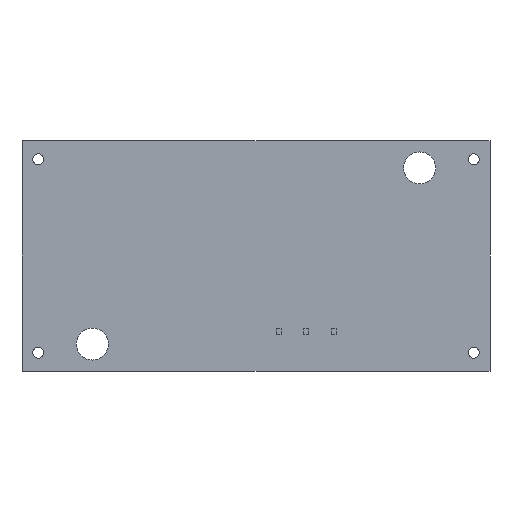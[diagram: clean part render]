
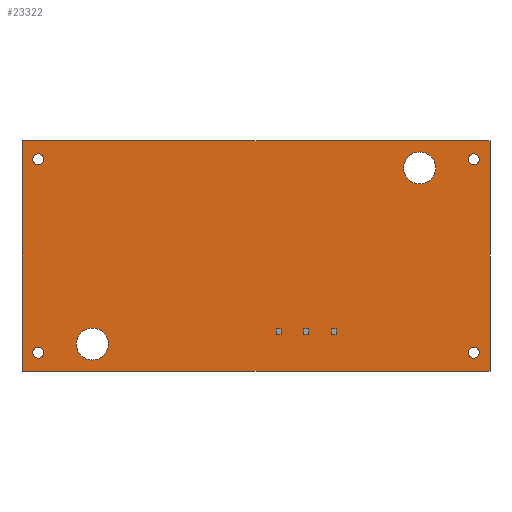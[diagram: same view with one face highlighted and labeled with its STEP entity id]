
A CAD part, front view. The second image highlights one B-rep face of the part: STEP entity #23322.
In plain terms, the highlighted planar face has unit normal (0, -1, 0).
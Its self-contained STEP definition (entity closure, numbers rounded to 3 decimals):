
#2386=FACE_BOUND('',#3950,.T.);
#2387=FACE_BOUND('',#3951,.T.);
#2388=FACE_BOUND('',#3952,.T.);
#2389=FACE_BOUND('',#3953,.T.);
#2390=FACE_BOUND('',#3954,.T.);
#2391=FACE_BOUND('',#3955,.T.);
#2474=CIRCLE('',#25178,0.5);
#2475=CIRCLE('',#25179,0.5);
#2476=CIRCLE('',#25180,0.5);
#2477=CIRCLE('',#25181,1.475);
#2478=CIRCLE('',#25182,0.5);
#2479=CIRCLE('',#25183,1.475);
#2629=FACE_OUTER_BOUND('',#3949,.T.);
#3949=EDGE_LOOP('',(#15906,#15907,#15908,#15909));
#3950=EDGE_LOOP('',(#15910));
#3951=EDGE_LOOP('',(#15911));
#3952=EDGE_LOOP('',(#15912));
#3953=EDGE_LOOP('',(#15913));
#3954=EDGE_LOOP('',(#15914));
#3955=EDGE_LOOP('',(#15915));
#5438=LINE('',#31493,#7834);
#5445=LINE('',#31506,#7841);
#5451=LINE('',#31517,#7847);
#5457=LINE('',#31527,#7853);
#7834=VECTOR('',#26389,21.25);
#7841=VECTOR('',#26398,43.2);
#7847=VECTOR('',#26406,21.25);
#7853=VECTOR('',#26414,43.2);
#10256=VERTEX_POINT('',#31491);
#10257=VERTEX_POINT('',#31492);
#10262=VERTEX_POINT('',#31505);
#10266=VERTEX_POINT('',#31516);
#10272=VERTEX_POINT('',#31535);
#10273=VERTEX_POINT('',#31537);
#10274=VERTEX_POINT('',#31539);
#10275=VERTEX_POINT('',#31541);
#10276=VERTEX_POINT('',#31543);
#10277=VERTEX_POINT('',#31545);
#12502=EDGE_CURVE('',#10256,#10257,#5438,.T.);
#12509=EDGE_CURVE('',#10257,#10262,#5445,.T.);
#12515=EDGE_CURVE('',#10262,#10266,#5451,.T.);
#12521=EDGE_CURVE('',#10266,#10256,#5457,.T.);
#12526=EDGE_CURVE('',#10272,#10272,#2474,.T.);
#12527=EDGE_CURVE('',#10273,#10273,#2475,.T.);
#12528=EDGE_CURVE('',#10274,#10274,#2476,.T.);
#12529=EDGE_CURVE('',#10275,#10275,#2477,.T.);
#12530=EDGE_CURVE('',#10276,#10276,#2478,.T.);
#12531=EDGE_CURVE('',#10277,#10277,#2479,.T.);
#15906=ORIENTED_EDGE('',*,*,#12502,.F.);
#15907=ORIENTED_EDGE('',*,*,#12521,.F.);
#15908=ORIENTED_EDGE('',*,*,#12515,.F.);
#15909=ORIENTED_EDGE('',*,*,#12509,.F.);
#15910=ORIENTED_EDGE('',*,*,#12526,.T.);
#15911=ORIENTED_EDGE('',*,*,#12527,.T.);
#15912=ORIENTED_EDGE('',*,*,#12528,.T.);
#15913=ORIENTED_EDGE('',*,*,#12529,.T.);
#15914=ORIENTED_EDGE('',*,*,#12530,.T.);
#15915=ORIENTED_EDGE('',*,*,#12531,.T.);
#22493=PLANE('',#25177);
#23322=ADVANCED_FACE('',(#2629,#2386,#2387,#2388,#2389,#2390,#2391),#22493,
 .T.);
#25177=AXIS2_PLACEMENT_3D('',#31534,#26419,#26420);
#25178=AXIS2_PLACEMENT_3D('',#31536,#26421,#26422);
#25179=AXIS2_PLACEMENT_3D('',#31538,#26423,#26424);
#25180=AXIS2_PLACEMENT_3D('',#31540,#26425,#26426);
#25181=AXIS2_PLACEMENT_3D('',#31542,#26427,#26428);
#25182=AXIS2_PLACEMENT_3D('',#31544,#26429,#26430);
#25183=AXIS2_PLACEMENT_3D('',#31546,#26431,#26432);
#26389=DIRECTION('',(0.,0.,-1.));
#26398=DIRECTION('',(-1.,0.,0.));
#26406=DIRECTION('',(0.,0.,1.));
#26414=DIRECTION('',(1.,0.,0.));
#26419=DIRECTION('center_axis',(0.,-1.,0.));
#26420=DIRECTION('ref_axis',(0.,0.,-1.));
#26421=DIRECTION('center_axis',(0.,1.,0.));
#26422=DIRECTION('ref_axis',(0.,0.,1.));
#26423=DIRECTION('center_axis',(0.,1.,0.));
#26424=DIRECTION('ref_axis',(0.,0.,-1.));
#26425=DIRECTION('center_axis',(0.,1.,0.));
#26426=DIRECTION('ref_axis',(0.,0.,-1.));
#26427=DIRECTION('center_axis',(0.,1.,0.));
#26428=DIRECTION('ref_axis',(0.,0.,1.));
#26429=DIRECTION('center_axis',(0.,1.,0.));
#26430=DIRECTION('ref_axis',(0.,0.,1.));
#26431=DIRECTION('center_axis',(0.,1.,0.));
#26432=DIRECTION('ref_axis',(0.,0.,1.));
#31491=CARTESIAN_POINT('',(21.6,0.,10.625));
#31492=CARTESIAN_POINT('',(21.6,0.,-10.625));
#31493=CARTESIAN_POINT('',(21.6,0.,10.625));
#31505=CARTESIAN_POINT('',(-21.6,0.,-10.625));
#31506=CARTESIAN_POINT('',(21.6,0.,-10.625));
#31516=CARTESIAN_POINT('',(-21.6,0.,10.625));
#31517=CARTESIAN_POINT('',(-21.6,0.,-10.625));
#31527=CARTESIAN_POINT('',(-21.6,0.,10.625));
#31534=CARTESIAN_POINT('Origin',(0.,0.,0.));
#31535=CARTESIAN_POINT('',(20.1,0.,9.425));
#31536=CARTESIAN_POINT('Origin',(20.1,0.,8.925));
#31537=CARTESIAN_POINT('',(20.1,0.,-8.425));
#31538=CARTESIAN_POINT('Origin',(20.1,0.,-8.925));
#31539=CARTESIAN_POINT('',(-20.1,0.,9.425));
#31540=CARTESIAN_POINT('Origin',(-20.1,0.,8.925));
#31541=CARTESIAN_POINT('',(15.1,0.,9.6));
#31542=CARTESIAN_POINT('Origin',(15.1,0.,8.125));
#31543=CARTESIAN_POINT('',(-20.1,0.,-8.425));
#31544=CARTESIAN_POINT('Origin',(-20.1,0.,-8.925));
#31545=CARTESIAN_POINT('',(-15.1,0.,-6.65));
#31546=CARTESIAN_POINT('Origin',(-15.1,0.,-8.125));
